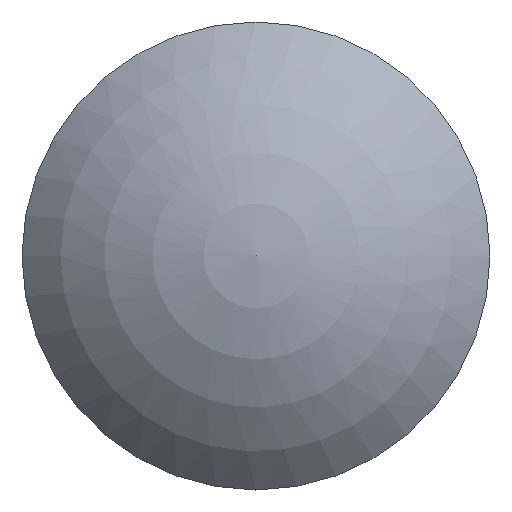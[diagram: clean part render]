
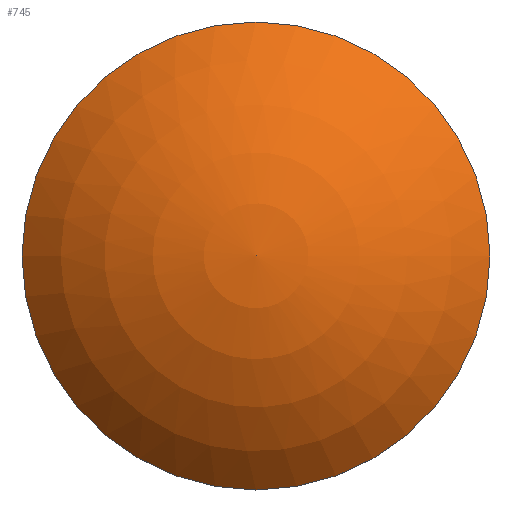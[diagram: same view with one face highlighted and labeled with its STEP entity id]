
A CAD part, top view. The second image highlights one B-rep face of the part: STEP entity #745.
In plain terms, the highlighted spherical face has radius 25.801 mm.
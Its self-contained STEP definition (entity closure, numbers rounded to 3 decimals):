
#678 = CYLINDRICAL_SURFACE('',#679,19.05);
#679 = AXIS2_PLACEMENT_3D('',#680,#681,#682);
#680 = CARTESIAN_POINT('',(0.,0.,0.8));
#681 = DIRECTION('',(0.,0.,1.));
#682 = DIRECTION('',(1.,0.,-0.));
#696 = VERTEX_POINT('',#697);
#697 = CARTESIAN_POINT('',(19.05,0.,1.6));
#718 = EDGE_CURVE('',#696,#696,#719,.T.);
#719 = SURFACE_CURVE('',#720,(#725,#732),.PCURVE_S1.);
#720 = CIRCLE('',#721,19.05);
#721 = AXIS2_PLACEMENT_3D('',#722,#723,#724);
#722 = CARTESIAN_POINT('',(0.,0.,1.6));
#723 = DIRECTION('',(0.,0.,1.));
#724 = DIRECTION('',(1.,0.,-0.));
#725 = PCURVE('',#678,#726);
#726 = DEFINITIONAL_REPRESENTATION('',(#727),#731);
#727 = LINE('',#728,#729);
#728 = CARTESIAN_POINT('',(0.,0.8));
#729 = VECTOR('',#730,1.);
#730 = DIRECTION('',(1.,0.));
#731 = ( GEOMETRIC_REPRESENTATION_CONTEXT(2) 
PARAMETRIC_REPRESENTATION_CONTEXT() REPRESENTATION_CONTEXT('2D SPACE',''
  ) );
#732 = PCURVE('',#733,#738);
#733 = SPHERICAL_SURFACE('',#734,25.801);
#734 = AXIS2_PLACEMENT_3D('',#735,#736,#737);
#735 = CARTESIAN_POINT('',(0.,0.,-15.801));
#736 = DIRECTION('',(0.,0.,1.));
#737 = DIRECTION('',(1.,0.,-0.));
#738 = DEFINITIONAL_REPRESENTATION('',(#739),#743);
#739 = LINE('',#740,#741);
#740 = CARTESIAN_POINT('',(0.,0.74));
#741 = VECTOR('',#742,1.);
#742 = DIRECTION('',(1.,0.));
#743 = ( GEOMETRIC_REPRESENTATION_CONTEXT(2) 
PARAMETRIC_REPRESENTATION_CONTEXT() REPRESENTATION_CONTEXT('2D SPACE',''
  ) );
#745 = ADVANCED_FACE('',(#746),#733,.T.);
#746 = FACE_BOUND('',#747,.T.);
#747 = EDGE_LOOP('',(#748,#749,#773));
#748 = ORIENTED_EDGE('',*,*,#718,.T.);
#749 = ORIENTED_EDGE('',*,*,#750,.T.);
#750 = EDGE_CURVE('',#696,#751,#753,.T.);
#751 = VERTEX_POINT('',#752);
#752 = CARTESIAN_POINT('',(0.,0.,10.));
#753 = SEAM_CURVE('',#754,(#759,#766),.PCURVE_S1.);
#754 = CIRCLE('',#755,25.801);
#755 = AXIS2_PLACEMENT_3D('',#756,#757,#758);
#756 = CARTESIAN_POINT('',(0.,0.,-15.801));
#757 = DIRECTION('',(0.,-1.,0.));
#758 = DIRECTION('',(0.738,0.,0.674));
#759 = PCURVE('',#733,#760);
#760 = DEFINITIONAL_REPRESENTATION('',(#761),#765);
#761 = LINE('',#762,#763);
#762 = CARTESIAN_POINT('',(0.,0.74));
#763 = VECTOR('',#764,1.);
#764 = DIRECTION('',(0.,1.));
#765 = ( GEOMETRIC_REPRESENTATION_CONTEXT(2) 
PARAMETRIC_REPRESENTATION_CONTEXT() REPRESENTATION_CONTEXT('2D SPACE',''
  ) );
#766 = PCURVE('',#733,#767);
#767 = DEFINITIONAL_REPRESENTATION('',(#768),#772);
#768 = LINE('',#769,#770);
#769 = CARTESIAN_POINT('',(6.283,0.74));
#770 = VECTOR('',#771,1.);
#771 = DIRECTION('',(0.,1.));
#772 = ( GEOMETRIC_REPRESENTATION_CONTEXT(2) 
PARAMETRIC_REPRESENTATION_CONTEXT() REPRESENTATION_CONTEXT('2D SPACE',''
  ) );
#773 = ORIENTED_EDGE('',*,*,#750,.F.);
